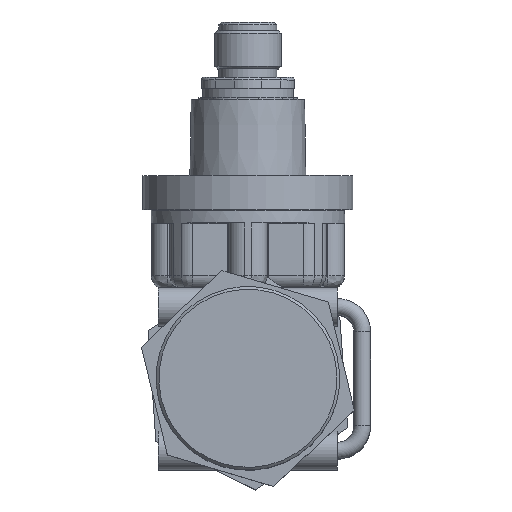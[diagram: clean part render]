
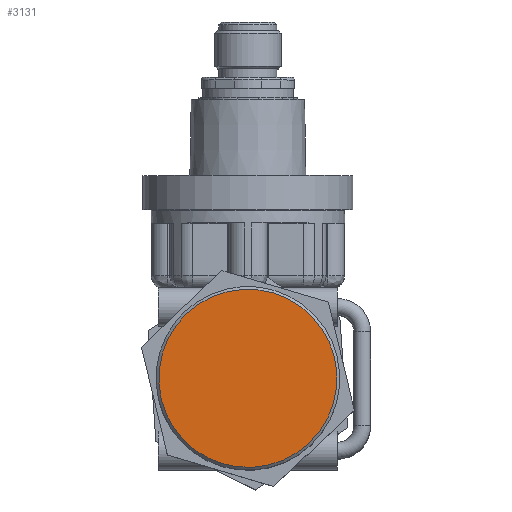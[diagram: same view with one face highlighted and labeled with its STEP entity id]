
A CAD part, top view. The second image highlights one B-rep face of the part: STEP entity #3131.
In plain terms, the highlighted planar face has unit normal (0, 0, 1).
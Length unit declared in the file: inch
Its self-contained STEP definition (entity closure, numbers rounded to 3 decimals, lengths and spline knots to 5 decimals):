
#124=PLANE('',#3551);
#792=FACE_OUTER_BOUND('',#1004,.T.);
#1004=EDGE_LOOP('',(#2704));
#1226=CIRCLE('',#3552,0.63484);
#1502=VERTEX_POINT('',#5790);
#1924=EDGE_CURVE('',#1502,#1502,#1226,.T.);
#2704=ORIENTED_EDGE('',*,*,#1924,.F.);
#3131=ADVANCED_FACE('',(#792),#124,.T.);
#3551=AXIS2_PLACEMENT_3D('',#5789,#4468,#4469);
#3552=AXIS2_PLACEMENT_3D('',#5791,#4470,#4471);
#4468=DIRECTION('center_axis',(0.,0.,
1.));
#4469=DIRECTION('ref_axis',(0.688,-0.725,0.));
#4470=DIRECTION('center_axis',(0.,0.,
-1.));
#4471=DIRECTION('ref_axis',(-0.688,0.725,0.));
#5789=CARTESIAN_POINT('Origin',(0.,0.,
2.4212));
#5790=CARTESIAN_POINT('',(0.43696,-0.46054,2.4212));
#5791=CARTESIAN_POINT('Origin',(0.,0.,
2.4212));
